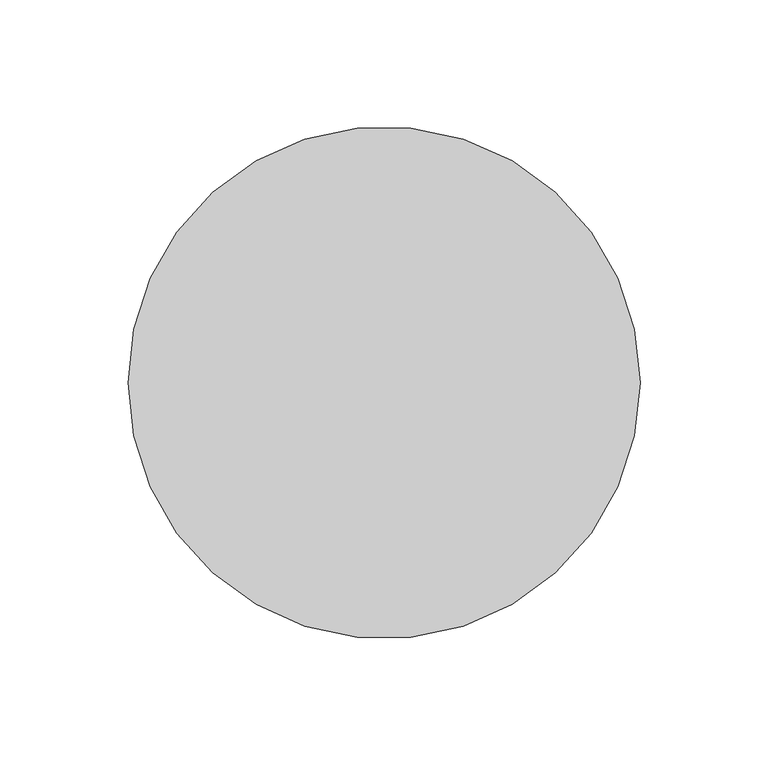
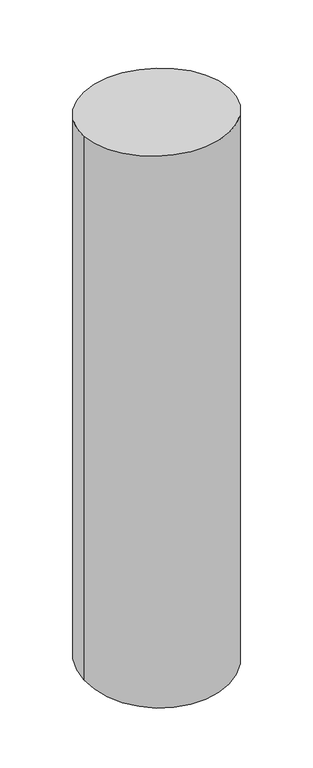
"""IFC4 building model written with IfcOpenShell, lengths in millimetres: member geometry, 矩形竖梃 : 圆瓦."""

from ifc_helpers import new_model, si_unit, frame, origin, origin_with_axes, place, context, project, spatial, ellipse_curve, source, transform, mapped, element, save
from ifc_brep_helpers import plane_surface, cylinder_surface, advanced_brep


def member_fd67414a(model_context):
    return source(origin(), model_context, "Body", "AdvancedBrep", [
        advanced_brep(
        [(-100.0, 0.0, 0.0), (100.0, 0.0, 0.0), (100.0, 0.0, -790.1124317), (-100.0, 0.0, -790.1124317)],
        [
            (0, 1, ellipse_curve(frame((0.0, 0.0, 0.0), z_axis=(0.0, -0.06767279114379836, -0.9977075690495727), x_axis=(0.0, -0.9977075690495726, 0.06767279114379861)), 100.2297698, 100.0)),
            (1, 2),
            (2, 3, ellipse_curve(frame((0.0, 0.0, -790.1124317), z_axis=(0.0, -0.06767279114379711, 0.9977075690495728), x_axis=(0.0, 0.9977075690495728, 0.06767279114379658)), 100.2297698, 100.0)),
            (3, 0),
            (1, 0, ellipse_curve(frame((0.0, 0.0, 0.0), z_axis=(0.0, -0.06767279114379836, -0.9977075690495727), x_axis=(0.0, -0.9977075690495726, 0.06767279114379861)), 100.2297698, 100.0)),
            (3, 2, ellipse_curve(frame((0.0, 0.0, -790.1124317), z_axis=(0.0, -0.06767279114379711, 0.9977075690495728), x_axis=(0.0, 0.9977075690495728, 0.06767279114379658)), 100.2297698, 100.0)),
        ],
        [
            cylinder_surface(origin_with_axes(), 100.0),
            plane_surface(frame((-304.8, 0.0, 0.0), z_axis=(0.0, 0.06767279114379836, 0.9977075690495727), x_axis=(0.0, 0.9977075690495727, -0.06767279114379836))),
            plane_surface(frame((-304.8, 0.0, -790.1124317), z_axis=(0.0, 0.06767279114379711, -0.9977075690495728), x_axis=(0.0, 0.9977075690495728, 0.06767279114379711))),
        ],
        [
            (0, [[1, 2, 3, 4]]),
            (0, [[5, -4, 6, -2]]),
            (1, [[-1, -5]]),
            (2, [[-6, -3]]),
        ],
    ),
    ])


if __name__ == "__main__":
    model = new_model("IFC4")
    model_context = context("Model", 3, world=origin())
    ifc_project = project(units=[si_unit("LENGTHUNIT", "METRE", prefix="MILLI")], contexts=[model_context])
    site = spatial("IfcSite", under=ifc_project)
    building = spatial("IfcBuilding", under=site)
    placement = place(None, origin())
    member_shape = member_fd67414a(model_context)
    element("IfcMember", 1, ObjectType="矩形竖梃 : 圆瓦", at=placement, inside=building, context=model_context, shape_type="MappedRepresentation", body=[
        mapped(member_shape, transform((0.0, 0.0, 0.0), x_axis=(1.0, 0.0, 0.0), y_axis=(0.0, 1.0, 0.0), z_axis=(0.0, 0.0, 1.0))),
    ])
    save(model, "model.ifc")
